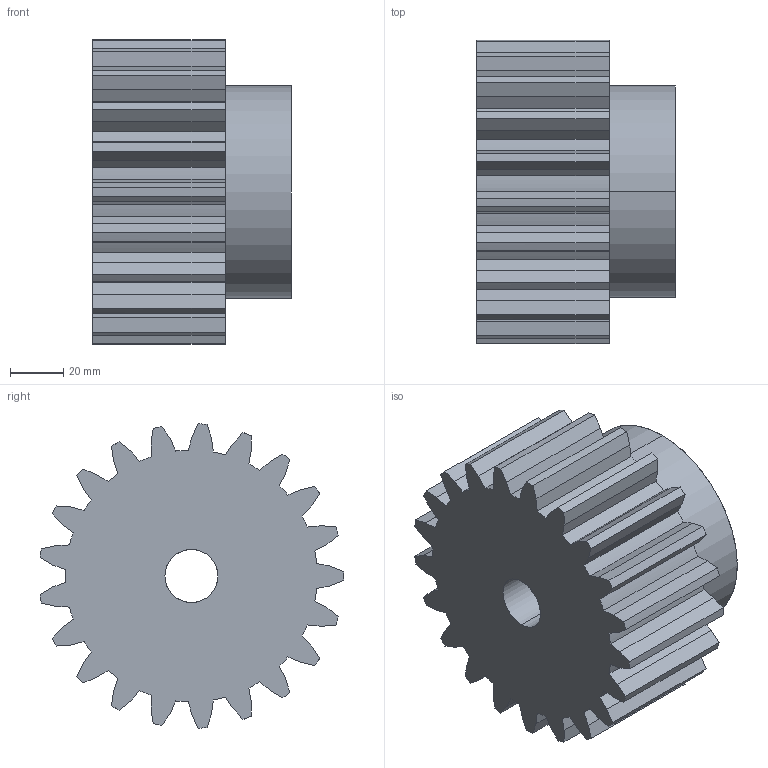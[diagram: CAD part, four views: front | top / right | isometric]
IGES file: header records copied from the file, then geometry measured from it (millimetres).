
Start section: SolidWorks IGES file using analytic representation for surfaces
Global section: file name: C:\Users\Honza\Desktop\Matis (Hotove)\Èelní ozubená kola\PM\MODUL 5\PM 32021.IGS; native system: SolidWorks 2010; preprocessor: SolidWorks 2010; author: Honza; date: 130926.094252; units: millimetre
Bounding box: 75 x 114.58 x 114.88 mm (x, y, z)
Surface area: 58394.1 mm2 (no closed solid volume)
Topology: 0 solids, 0 shells, 133 faces, 965 edges, 965 vertices
Faces by surface type: bspline 87, revolution 46
